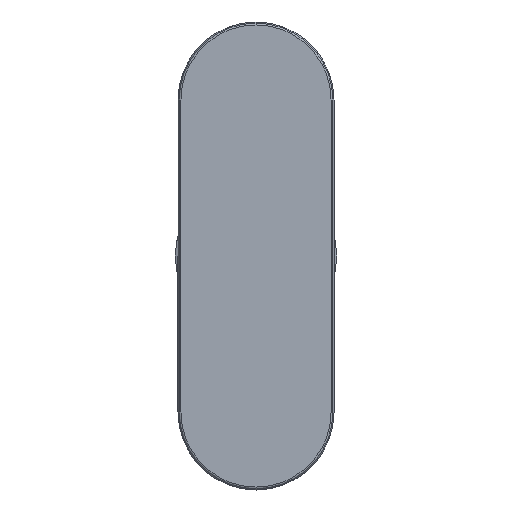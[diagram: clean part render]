
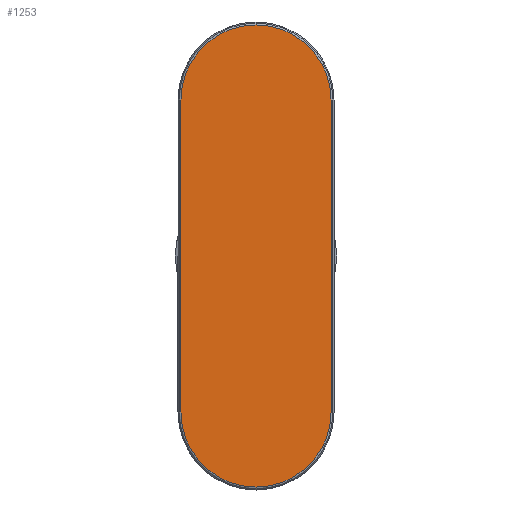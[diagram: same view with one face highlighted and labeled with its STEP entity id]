
A CAD part, front view. The second image highlights one B-rep face of the part: STEP entity #1253.
In plain terms, the highlighted planar face has unit normal (0, -1, 0).
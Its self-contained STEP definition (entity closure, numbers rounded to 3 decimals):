
#666=CARTESIAN_POINT('',(0.0,0.,22.217));
#667=VERTEX_POINT('',#666);
#668=CARTESIAN_POINT('',(7.217,0.0,15.));
#669=VERTEX_POINT('',#668);
#670=CARTESIAN_POINT('',(0.0,0.,15.0));
#671=DIRECTION('',(0.0,1.0,0.0));
#672=DIRECTION('',(-1.0,0.0,0.0));
#673=AXIS2_PLACEMENT_3D('',#670,#671,#672);
#674=CIRCLE('',#673,7.217);
#675=EDGE_CURVE('',#667,#669,#674,.T.);
#805=CARTESIAN_POINT('',(7.217,0.0,-15.));
#806=VERTEX_POINT('',#805);
#807=CARTESIAN_POINT('',(7.217,0.,15.));
#808=DIRECTION('',(0.0,0.0,-1.0));
#809=VECTOR('',#808,30.0);
#810=LINE('',#807,#809);
#811=EDGE_CURVE('',#669,#806,#810,.T.);
#1139=CARTESIAN_POINT('',(-7.217,0.0,15.0));
#1140=VERTEX_POINT('',#1139);
#1141=CARTESIAN_POINT('',(0.0,0.,15.0));
#1142=DIRECTION('',(0.0,1.0,0.0));
#1143=DIRECTION('',(-1.0,0.0,0.0));
#1144=AXIS2_PLACEMENT_3D('',#1141,#1142,#1143);
#1145=CIRCLE('',#1144,7.217);
#1146=EDGE_CURVE('',#1140,#667,#1145,.T.);
#1203=CARTESIAN_POINT('',(-7.217,0.0,-15.));
#1204=VERTEX_POINT('',#1203);
#1205=CARTESIAN_POINT('',(-7.217,0.,-15.));
#1206=DIRECTION('',(0.0,0.0,1.0));
#1207=VECTOR('',#1206,30.);
#1208=LINE('',#1205,#1207);
#1209=EDGE_CURVE('',#1204,#1140,#1208,.T.);
#1228=CARTESIAN_POINT('',(0.0,0.,-15.0));
#1229=DIRECTION('',(0.0,1.0,0.0));
#1230=DIRECTION('',(1.0,0.0,0.0));
#1231=AXIS2_PLACEMENT_3D('',#1228,#1229,#1230);
#1232=CIRCLE('',#1231,7.217);
#1233=EDGE_CURVE('',#806,#1204,#1232,.T.);
#1241=CARTESIAN_POINT('',(0.,0.0,0.076));
#1242=DIRECTION('',(0.0,1.0,0.0));
#1243=DIRECTION('',(0.0,0.0,1.0));
#1244=AXIS2_PLACEMENT_3D('',#1241,#1242,#1243);
#1245=PLANE('',#1244);
#1246=ORIENTED_EDGE('',*,*,#1233,.F.);
#1247=ORIENTED_EDGE('',*,*,#811,.F.);
#1248=ORIENTED_EDGE('',*,*,#675,.F.);
#1249=ORIENTED_EDGE('',*,*,#1146,.F.);
#1250=ORIENTED_EDGE('',*,*,#1209,.F.);
#1251=EDGE_LOOP('',(#1246,#1247,#1248,#1249,#1250));
#1252=FACE_OUTER_BOUND('',#1251,.T.);
#1253=ADVANCED_FACE('',(#1252),#1245,.F.);
